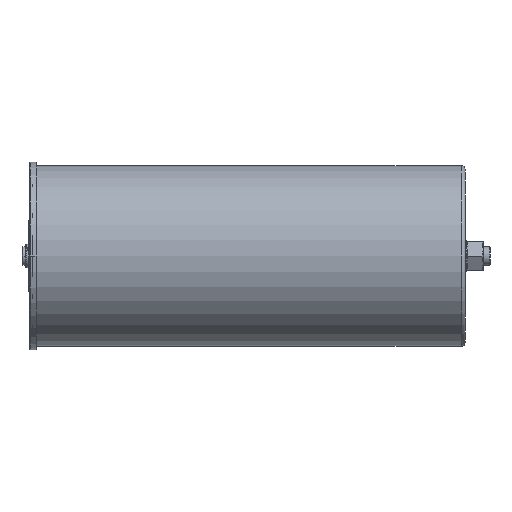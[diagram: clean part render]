
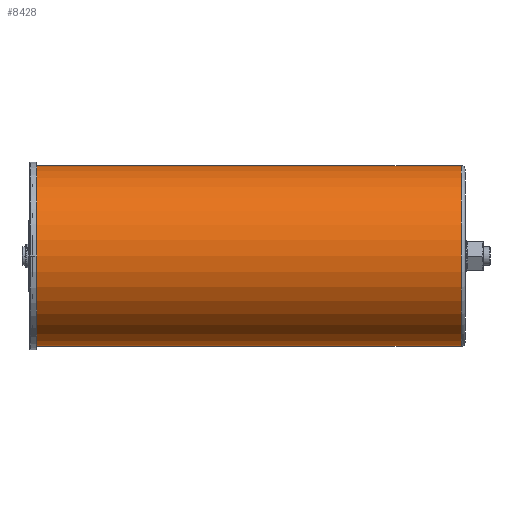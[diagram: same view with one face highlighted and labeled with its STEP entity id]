
A CAD part, left-side view. The second image highlights one B-rep face of the part: STEP entity #8428.
In plain terms, the highlighted cylindrical face has radius 58 mm (diameter 116 mm), a partial arc.
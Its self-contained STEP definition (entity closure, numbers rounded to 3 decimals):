
#409 = DIRECTION ( 'NONE',  ( 0., 0., -1. ) ) ;
#467 = VECTOR ( 'NONE', #4285, 1000. ) ;
#507 = VERTEX_POINT ( 'NONE', #11091 ) ;
#1815 = CIRCLE ( 'NONE', #6376, 58. ) ;
#2218 = CYLINDRICAL_SURFACE ( 'NONE', #10324, 58. ) ;
#2338 = VERTEX_POINT ( 'NONE', #9406 ) ;
#2779 = VECTOR ( 'NONE', #3183, 1000. ) ;
#2910 = DIRECTION ( 'NONE',  ( 0., 1., 0. ) ) ;
#3144 = FACE_OUTER_BOUND ( 'NONE', #7019, .T. ) ;
#3183 = DIRECTION ( 'NONE',  ( 0., -1., 0. ) ) ;
#3303 = CARTESIAN_POINT ( 'NONE',  ( 0., -277.4, 58. ) ) ;
#3850 = VERTEX_POINT ( 'NONE', #6971 ) ;
#4285 = DIRECTION ( 'NONE',  ( 0., -1., 0. ) ) ;
#4516 = AXIS2_PLACEMENT_3D ( 'NONE', #9952, #10964, #409 ) ;
#4559 = DIRECTION ( 'NONE',  ( 0., 0., -1. ) ) ;
#5456 = DIRECTION ( 'NONE',  ( 0., -1., 0. ) ) ;
#5633 = ORIENTED_EDGE ( 'NONE', *, *, #11486, .F. ) ;
#5912 = DIRECTION ( 'NONE',  ( 0., 0., -1. ) ) ;
#5945 = ORIENTED_EDGE ( 'NONE', *, *, #7234, .T. ) ;
#6376 = AXIS2_PLACEMENT_3D ( 'NONE', #8670, #2910, #5912 ) ;
#6389 = CARTESIAN_POINT ( 'NONE',  ( 0., -277.4, 0. ) ) ;
#6971 = CARTESIAN_POINT ( 'NONE',  ( 0., -274.9, -58. ) ) ;
#7019 = EDGE_LOOP ( 'NONE', ( #5633, #5945, #11904, #9393 ) ) ;
#7234 = EDGE_CURVE ( 'NONE', #8839, #507, #10242, .T. ) ;
#7990 = EDGE_CURVE ( 'NONE', #3850, #2338, #1815, .T. ) ;
#8428 = ADVANCED_FACE ( 'NONE', ( #3144 ), #2218, .T. ) ;
#8670 = CARTESIAN_POINT ( 'NONE',  ( 0., -274.9, 0. ) ) ;
#8839 = VERTEX_POINT ( 'NONE', #9429 ) ;
#8942 = LINE ( 'NONE', #3303, #2779 ) ;
#9294 = EDGE_CURVE ( 'NONE', #507, #3850, #9908, .T. ) ;
#9393 = ORIENTED_EDGE ( 'NONE', *, *, #7990, .T. ) ;
#9406 = CARTESIAN_POINT ( 'NONE',  ( 0., -274.9, 58. ) ) ;
#9429 = CARTESIAN_POINT ( 'NONE',  ( 0., -0.6, 58. ) ) ;
#9908 = LINE ( 'NONE', #11891, #467 ) ;
#9952 = CARTESIAN_POINT ( 'NONE',  ( 0., -0.6, 0. ) ) ;
#10242 = CIRCLE ( 'NONE', #4516, 58. ) ;
#10324 = AXIS2_PLACEMENT_3D ( 'NONE', #6389, #5456, #4559 ) ;
#10964 = DIRECTION ( 'NONE',  ( 0., -1., 0. ) ) ;
#11091 = CARTESIAN_POINT ( 'NONE',  ( 0., -0.6, -58. ) ) ;
#11486 = EDGE_CURVE ( 'NONE', #8839, #2338, #8942, .T. ) ;
#11891 = CARTESIAN_POINT ( 'NONE',  ( 0., -277.4, -58. ) ) ;
#11904 = ORIENTED_EDGE ( 'NONE', *, *, #9294, .T. ) ;
